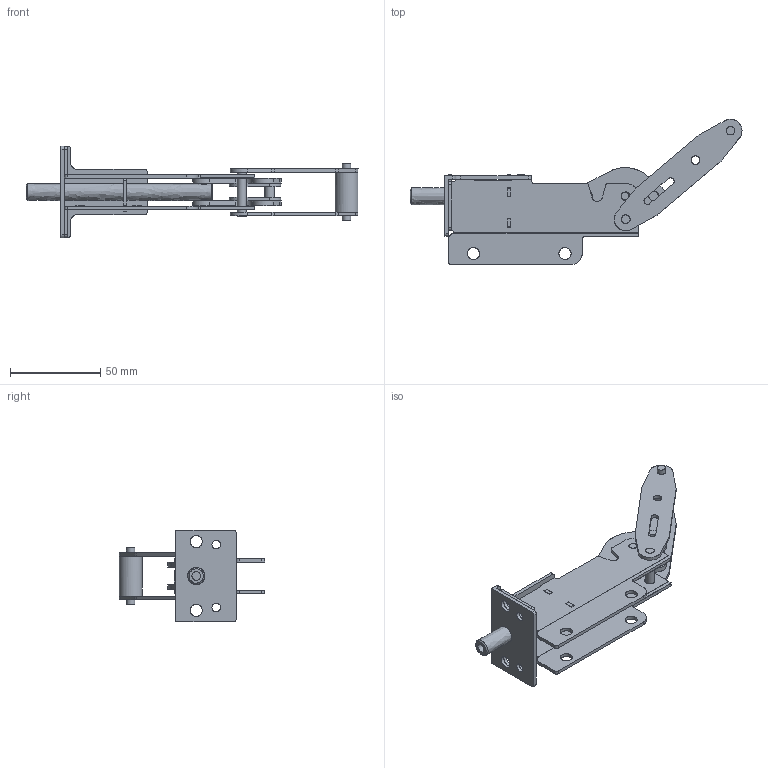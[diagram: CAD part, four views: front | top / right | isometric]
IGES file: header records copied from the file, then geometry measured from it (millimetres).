
Start section:  Autodesk DirectConnect version 7.0.27.0 ---- IGES version 5.3
Global section: file name: C:\Users\Nick\Desktop\P&PS 800\3D\P&PS-800 Open.igs; native system: Autodesk DirectConnect 7.0.27.0; preprocessor: 7.0.27.0; author: Nick; organization: Unknown; date: 20150604.130400; units: inch
Bounding box: 184.34 x 80.76 x 50.8 mm (x, y, z)
Surface area: 45876.1 mm2 (no closed solid volume)
Topology: 0 solids, 0 shells, 331 faces, 2223 edges, 2210 vertices
Faces by surface type: bspline 331
